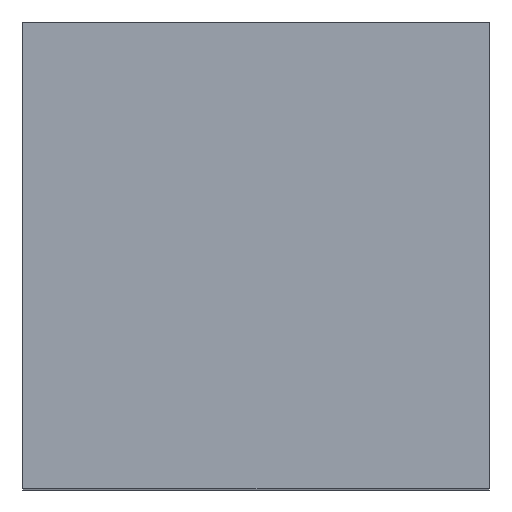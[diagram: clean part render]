
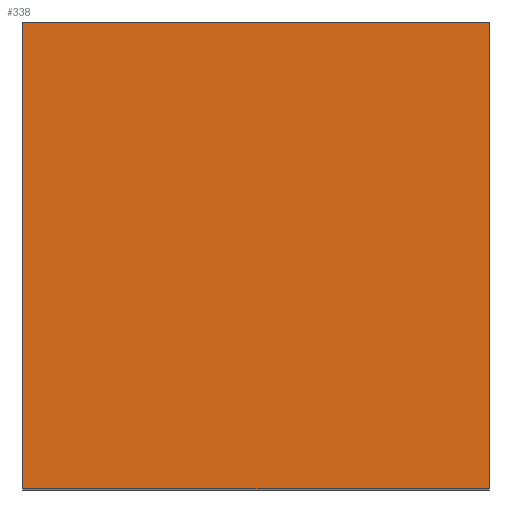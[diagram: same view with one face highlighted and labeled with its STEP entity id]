
A CAD part, top view. The second image highlights one B-rep face of the part: STEP entity #338.
In plain terms, the highlighted planar face has unit normal (0, 0, 1).
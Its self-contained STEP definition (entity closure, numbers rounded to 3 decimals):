
#24 = VERTEX_POINT('',#25);
#25 = CARTESIAN_POINT('',(-118.,-169.913,41.));
#32 = PLANE('',#33);
#33 = AXIS2_PLACEMENT_3D('',#34,#35,#36);
#34 = CARTESIAN_POINT('',(-118.,-169.913,25.));
#35 = DIRECTION('',(1.,0.,-0.));
#36 = DIRECTION('',(0.,0.,1.));
#44 = PLANE('',#45);
#45 = AXIS2_PLACEMENT_3D('',#46,#47,#48);
#46 = CARTESIAN_POINT('',(-118.,-169.913,25.));
#47 = DIRECTION('',(-0.,1.,0.));
#48 = DIRECTION('',(0.,0.,1.));
#85 = VERTEX_POINT('',#86);
#86 = CARTESIAN_POINT('',(-118.,-157.913,41.));
#100 = PLANE('',#101);
#101 = AXIS2_PLACEMENT_3D('',#102,#103,#104);
#102 = CARTESIAN_POINT('',(-118.,-157.913,25.));
#103 = DIRECTION('',(-0.,1.,0.));
#104 = DIRECTION('',(0.,0.,1.));
#112 = EDGE_CURVE('',#24,#85,#113,.T.);
#113 = SURFACE_CURVE('',#114,(#118,#125),.PCURVE_S1.);
#114 = LINE('',#115,#116);
#115 = CARTESIAN_POINT('',(-118.,-169.913,41.));
#116 = VECTOR('',#117,1.);
#117 = DIRECTION('',(-0.,1.,0.));
#118 = PCURVE('',#32,#119);
#119 = DEFINITIONAL_REPRESENTATION('',(#120),#124);
#120 = LINE('',#121,#122);
#121 = CARTESIAN_POINT('',(16.,0.));
#122 = VECTOR('',#123,1.);
#123 = DIRECTION('',(0.,-1.));
#124 = ( GEOMETRIC_REPRESENTATION_CONTEXT(2) 
PARAMETRIC_REPRESENTATION_CONTEXT() REPRESENTATION_CONTEXT('2D SPACE',''
  ) );
#125 = PCURVE('',#126,#131);
#126 = PLANE('',#127);
#127 = AXIS2_PLACEMENT_3D('',#128,#129,#130);
#128 = CARTESIAN_POINT('',(-118.,-169.913,41.));
#129 = DIRECTION('',(0.,0.,1.));
#130 = DIRECTION('',(1.,0.,-0.));
#131 = DEFINITIONAL_REPRESENTATION('',(#132),#136);
#132 = LINE('',#133,#134);
#133 = CARTESIAN_POINT('',(0.,0.));
#134 = VECTOR('',#135,1.);
#135 = DIRECTION('',(0.,1.));
#136 = ( GEOMETRIC_REPRESENTATION_CONTEXT(2) 
PARAMETRIC_REPRESENTATION_CONTEXT() REPRESENTATION_CONTEXT('2D SPACE',''
  ) );
#144 = VERTEX_POINT('',#145);
#145 = CARTESIAN_POINT('',(-106.,-169.913,41.));
#152 = PLANE('',#153);
#153 = AXIS2_PLACEMENT_3D('',#154,#155,#156);
#154 = CARTESIAN_POINT('',(-106.,-169.913,25.));
#155 = DIRECTION('',(1.,0.,-0.));
#156 = DIRECTION('',(0.,0.,1.));
#195 = VERTEX_POINT('',#196);
#196 = CARTESIAN_POINT('',(-106.,-157.913,41.));
#217 = EDGE_CURVE('',#144,#195,#218,.T.);
#218 = SURFACE_CURVE('',#219,(#223,#230),.PCURVE_S1.);
#219 = LINE('',#220,#221);
#220 = CARTESIAN_POINT('',(-106.,-169.913,41.));
#221 = VECTOR('',#222,1.);
#222 = DIRECTION('',(-0.,1.,0.));
#223 = PCURVE('',#152,#224);
#224 = DEFINITIONAL_REPRESENTATION('',(#225),#229);
#225 = LINE('',#226,#227);
#226 = CARTESIAN_POINT('',(16.,0.));
#227 = VECTOR('',#228,1.);
#228 = DIRECTION('',(0.,-1.));
#229 = ( GEOMETRIC_REPRESENTATION_CONTEXT(2) 
PARAMETRIC_REPRESENTATION_CONTEXT() REPRESENTATION_CONTEXT('2D SPACE',''
  ) );
#230 = PCURVE('',#126,#231);
#231 = DEFINITIONAL_REPRESENTATION('',(#232),#236);
#232 = LINE('',#233,#234);
#233 = CARTESIAN_POINT('',(12.,0.));
#234 = VECTOR('',#235,1.);
#235 = DIRECTION('',(0.,1.));
#236 = ( GEOMETRIC_REPRESENTATION_CONTEXT(2) 
PARAMETRIC_REPRESENTATION_CONTEXT() REPRESENTATION_CONTEXT('2D SPACE',''
  ) );
#263 = EDGE_CURVE('',#24,#144,#264,.T.);
#264 = SURFACE_CURVE('',#265,(#269,#276),.PCURVE_S1.);
#265 = LINE('',#266,#267);
#266 = CARTESIAN_POINT('',(-118.,-169.913,41.));
#267 = VECTOR('',#268,1.);
#268 = DIRECTION('',(1.,0.,-0.));
#269 = PCURVE('',#44,#270);
#270 = DEFINITIONAL_REPRESENTATION('',(#271),#275);
#271 = LINE('',#272,#273);
#272 = CARTESIAN_POINT('',(16.,0.));
#273 = VECTOR('',#274,1.);
#274 = DIRECTION('',(0.,1.));
#275 = ( GEOMETRIC_REPRESENTATION_CONTEXT(2) 
PARAMETRIC_REPRESENTATION_CONTEXT() REPRESENTATION_CONTEXT('2D SPACE',''
  ) );
#276 = PCURVE('',#126,#277);
#277 = DEFINITIONAL_REPRESENTATION('',(#278),#282);
#278 = LINE('',#279,#280);
#279 = CARTESIAN_POINT('',(0.,0.));
#280 = VECTOR('',#281,1.);
#281 = DIRECTION('',(1.,0.));
#282 = ( GEOMETRIC_REPRESENTATION_CONTEXT(2) 
PARAMETRIC_REPRESENTATION_CONTEXT() REPRESENTATION_CONTEXT('2D SPACE',''
  ) );
#310 = EDGE_CURVE('',#85,#195,#311,.T.);
#311 = SURFACE_CURVE('',#312,(#316,#323),.PCURVE_S1.);
#312 = LINE('',#313,#314);
#313 = CARTESIAN_POINT('',(-118.,-157.913,41.));
#314 = VECTOR('',#315,1.);
#315 = DIRECTION('',(1.,0.,-0.));
#316 = PCURVE('',#100,#317);
#317 = DEFINITIONAL_REPRESENTATION('',(#318),#322);
#318 = LINE('',#319,#320);
#319 = CARTESIAN_POINT('',(16.,0.));
#320 = VECTOR('',#321,1.);
#321 = DIRECTION('',(0.,1.));
#322 = ( GEOMETRIC_REPRESENTATION_CONTEXT(2) 
PARAMETRIC_REPRESENTATION_CONTEXT() REPRESENTATION_CONTEXT('2D SPACE',''
  ) );
#323 = PCURVE('',#126,#324);
#324 = DEFINITIONAL_REPRESENTATION('',(#325),#329);
#325 = LINE('',#326,#327);
#326 = CARTESIAN_POINT('',(0.,12.));
#327 = VECTOR('',#328,1.);
#328 = DIRECTION('',(1.,0.));
#329 = ( GEOMETRIC_REPRESENTATION_CONTEXT(2) 
PARAMETRIC_REPRESENTATION_CONTEXT() REPRESENTATION_CONTEXT('2D SPACE',''
  ) );
#338 = ADVANCED_FACE('',(#339),#126,.T.);
#339 = FACE_BOUND('',#340,.T.);
#340 = EDGE_LOOP('',(#341,#342,#343,#344));
#341 = ORIENTED_EDGE('',*,*,#112,.F.);
#342 = ORIENTED_EDGE('',*,*,#263,.T.);
#343 = ORIENTED_EDGE('',*,*,#217,.T.);
#344 = ORIENTED_EDGE('',*,*,#310,.F.);
